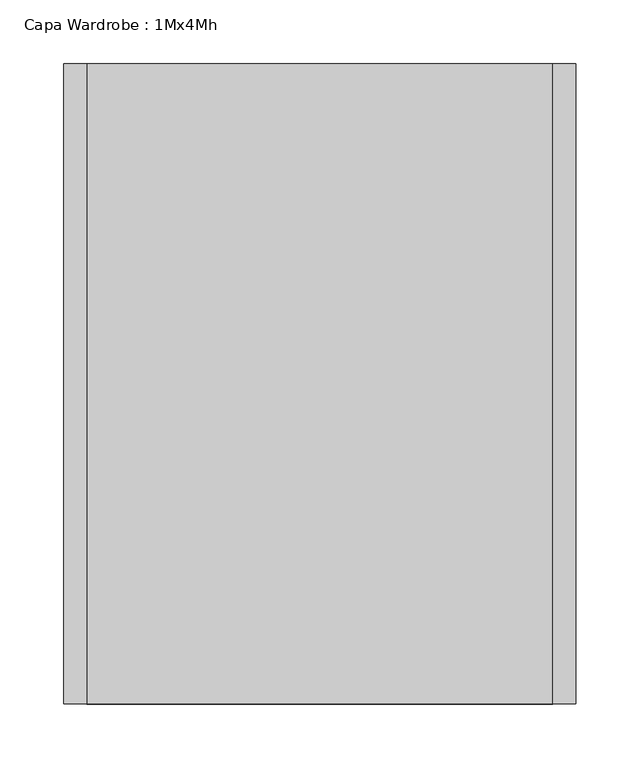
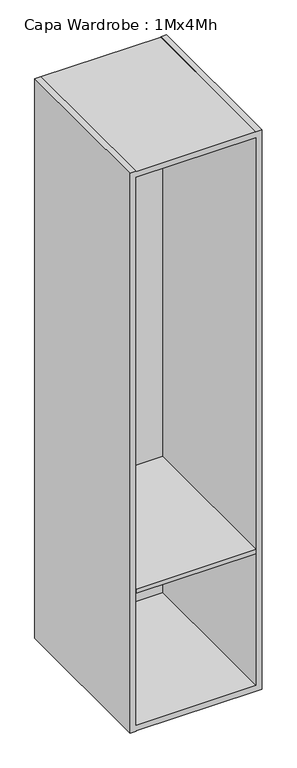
"""IFC4 building model written with IfcOpenShell, lengths in millimetres: furniture geometry, Capa Wardrobe : 1Mx4Mh."""

from ifc_helpers import new_model, si_unit, point, frame, frame_2d, origin, place, context, project, spatial, polyline, circle_curve, trimmed, segment, composite_curve, outline, extrude, faceted_brep, source, transform, mapped, element, save


def capa_wardrobe_1mx4mh_3ce52242(model_context):
    return source(origin(), model_context, "Body", "SolidModel", [
        extrude(outline(polyline([(182.0, -500.0), (-182.0, -500.0), (-182.0, -10.0), (182.0, -10.0), (182.0, -500.0)])), frame((0.0, 0.0, 441.0), z_axis=(0.0, 0.0, 1.0), x_axis=(1.0, 0.0, 0.0)), (0.0, 0.0, 1.0), 14.0),
        extrude(outline(composite_curve([segment(polyline([(-250.0, 1692.0), (-250.0, 1672.0)]), True, "CONTINUOUS"), segment(trimmed(circle_curve(frame_2d((-258.0, 1672.0)), 8.0), [point((-250.0, 1672.0))], [point((-266.0, 1672.0))], False, "CARTESIAN"), True, "CONTINUOUS"), segment(polyline([(-266.0, 1672.0), (-266.0, 1692.0)]), True, "CONTINUOUS"), segment(trimmed(circle_curve(frame_2d((-258.0, 1692.0)), 8.0), [point((-266.0, 1692.0))], [point((-250.0, 1692.0))], False, "CARTESIAN"), True, "CONTINUOUS")], self_intersect=False)), frame((-182.0, 0.0, 0.0), z_axis=(1.0, 0.0, 0.0), x_axis=(0.0, 1.0, 0.0)), (0.0, 0.0, 1.0), 364.0),
        faceted_brep([(-182.0, 0.0, 1792.0), (-182.0, 0.0, 1791.0), (182.0, 0.0, 1791.0), (182.0, 0.0, 1792.0), (200.0, 0.0, 1792.0), (200.0, 0.0, 0.0), (182.0, 0.0, 0.0), (182.0, 0.0, 1.0), (-182.0, 0.0, 1.0), (-182.0, 0.0, 0.0), (-200.0, 0.0, 0.0), (-200.0, 0.0, 1792.0), (182.0, -10.0, 19.0), (182.0, -10.0, 1773.0), (-182.0, -10.0, 1773.0), (-182.0, -10.0, 19.0), (-182.0, -500.0, 1792.0), (-200.0, -500.0, 1792.0), (-200.0, -500.0, 0.0), (-182.0, -500.0, 0.0), (-182.0, -500.0, 1.0), (182.0, -500.0, 1.0), (182.0, -500.0, 0.0), (200.0, -500.0, 0.0), (200.0, -500.0, 1792.0), (182.0, -500.0, 1792.0), (182.0, -500.0, 1791.0), (-182.0, -500.0, 1791.0), (182.0, -500.0, 1773.0), (182.0, -500.0, 19.0), (-182.0, -500.0, 19.0), (-182.0, -500.0, 1773.0)], [[[0, 1, 2, 3, 4, 5, 6, 7, 8, 9, 10, 11]], [[12, 13, 14, 15]], [[16, 17, 18, 19, 20, 21, 22, 23, 24, 25, 26, 27], [28, 29, 30, 31]], [[17, 16, 0, 11]], [[18, 17, 11, 10]], [[23, 22, 6, 5]], [[24, 23, 5, 4]], [[19, 18, 10, 9]], [[20, 19, 9, 8]], [[21, 20, 8, 7]], [[22, 21, 7, 6]], [[25, 24, 4, 3]], [[26, 25, 3, 2]], [[27, 26, 2, 1]], [[16, 27, 1, 0]], [[29, 28, 13, 12]], [[30, 29, 12, 15]], [[31, 30, 15, 14]], [[28, 31, 14, 13]]]),
    ])


if __name__ == "__main__":
    model = new_model("IFC4")
    model_context = context("Model", 3, world=origin())
    ifc_project = project(units=[si_unit("LENGTHUNIT", "METRE", prefix="MILLI")], contexts=[model_context])
    site = spatial("IfcSite", under=ifc_project)
    building = spatial("IfcBuilding", under=site)
    placement = place(None, origin())
    capa_wardrobe_1mx4mh_shape = capa_wardrobe_1mx4mh_3ce52242(model_context)
    element("IfcFurniture", 1, ObjectType="Capa Wardrobe : 1Mx4Mh", at=placement, inside=building, context=model_context, shape_type="MappedRepresentation", body=[
        mapped(capa_wardrobe_1mx4mh_shape, transform((0.0, 0.0, 0.0), x_axis=(1.0, 0.0, 0.0), y_axis=(0.0, 1.0, 0.0), z_axis=(0.0, 0.0, 1.0))),
    ])
    save(model, "model.ifc")
